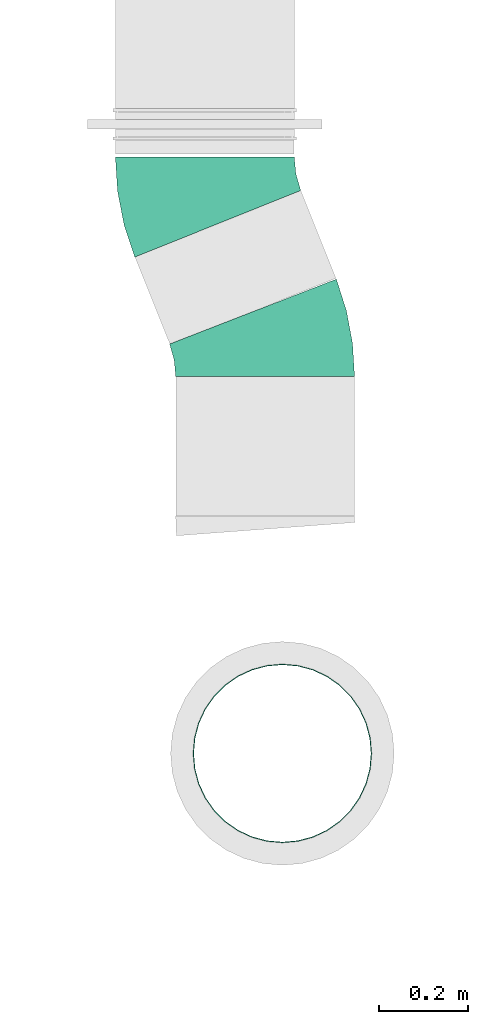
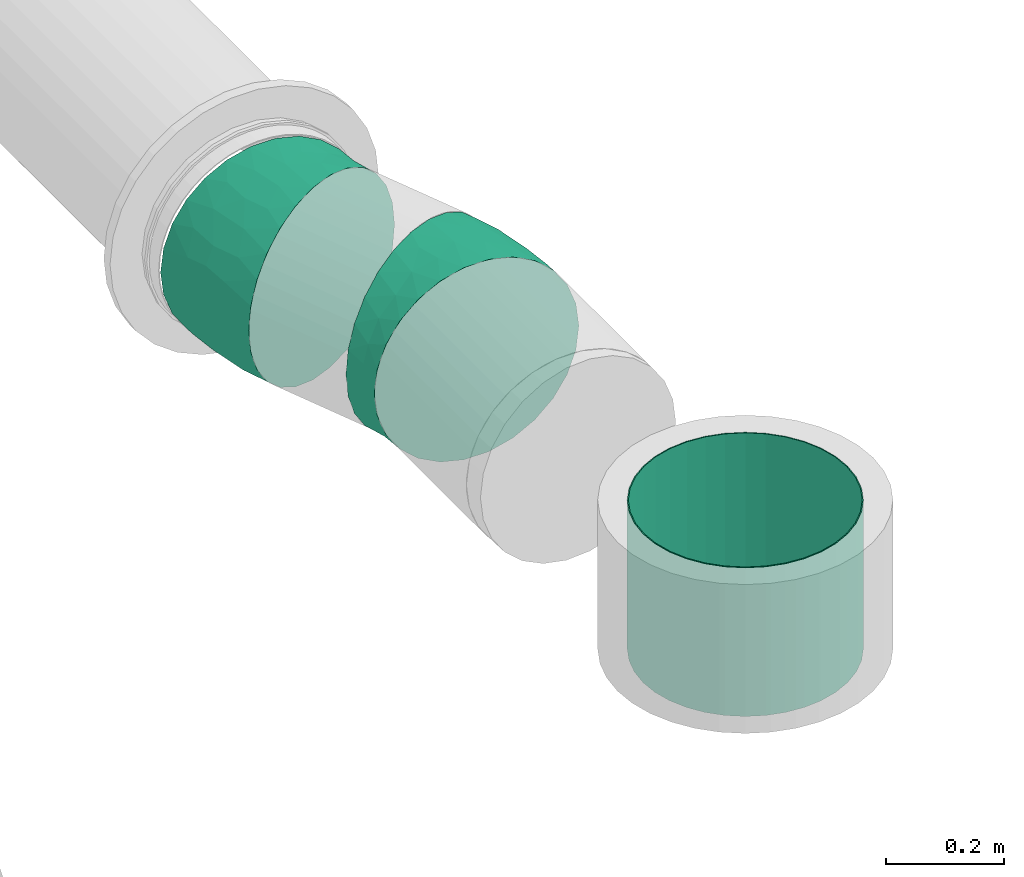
# One storey, part 12 of 14: 2 flow fittings, 1 flow segment.
"""IFC2X3 building model written with IfcOpenShell, lengths in millimetres."""

from ifc_helpers import new_model, entity, si_unit, converted_unit, derived_unit, direction, frame, origin_with_axes, place, context, subcontext, project, spatial, open_shell, faceted_brep, surface_model, source, transform, mapped, type_object, element, save


model = new_model("IFC2X3")

# Units and contexts
model_context = context("Model", 3, precision=0.01, world=frame((0.0, 4.29681676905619e-09, 0.0)), true_north=direction((4.01073788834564e-13, 1.0)))
plan_context = context("Plan", 3, precision=0.01, world=frame((0.0, 4.29681676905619e-09, 0.0)), true_north=direction((4.01073788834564e-13, 1.0)))
body_context = subcontext(model_context, "Body", "Model", "MODEL_VIEW")
ifc_project = project(units=[converted_unit("PLANEANGLEUNIT", "DEGREE", entity("IfcPositiveLengthMeasure", 0.0174532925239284), si_unit("PLANEANGLEUNIT", "RADIAN"), dimensions=[0, 0, 0, 0, 0, 0, 0]), si_unit("AREAUNIT", "SQUARE_METRE"), si_unit("LENGTHUNIT", "METRE", prefix="MILLI"), si_unit("MASSUNIT", "GRAM", prefix="KILO"), si_unit("POWERUNIT", "WATT"), si_unit("PRESSUREUNIT", "PASCAL", prefix="KILO"), si_unit("FORCEUNIT", "NEWTON", prefix="KILO"), si_unit("ELECTRICVOLTAGEUNIT", "VOLT"), si_unit("ELECTRICCURRENTUNIT", "AMPERE"), si_unit("THERMODYNAMICTEMPERATUREUNIT", "DEGREE_CELSIUS"), si_unit("TIMEUNIT", "SECOND"), si_unit("VOLUMEUNIT", "CUBIC_METRE"), derived_unit("LINEARVELOCITYUNIT", [(si_unit("LENGTHUNIT", "METRE"), 1), (si_unit("TIMEUNIT", "SECOND"), -1)]), derived_unit("VOLUMETRICFLOWRATEUNIT", [(si_unit("VOLUMEUNIT", "CUBIC_METRE"), 1), (si_unit("TIMEUNIT", "SECOND"), -1)]), derived_unit("THERMALTRANSMITTANCEUNIT", [(si_unit("POWERUNIT", "WATT"), 1), (si_unit("THERMODYNAMICTEMPERATUREUNIT", "KELVIN"), -1), (si_unit("AREAUNIT", "SQUARE_METRE"), -1)]), derived_unit("SOUNDPRESSUREUNIT", [(si_unit("PRESSUREUNIT", "PASCAL"), 1)])], contexts=[model_context, plan_context])

# Site, building, storey
site_placement = place(None, frame((0.0, -4.29681676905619e-09, 0.0), z_axis=(0.0, 0.0, 1.0), x_axis=(1.0, 0.0, 0.0)))
site = spatial("IfcSite", under=ifc_project, at=site_placement, CompositionType="ELEMENT")
building_placement = place(site_placement, frame((0.0, 4.29681676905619e-09, 0.0), z_axis=(0.0, 0.0, 1.0), x_axis=(1.0, 0.0, 0.0)))
building = spatial("IfcBuilding", under=site, at=building_placement, Name="mc-building", CompositionType="ELEMENT")
storey_placement = place(building_placement, frame((0.0, 0.0, 205200.0), z_axis=(0.0, 0.0, 1.0), x_axis=(1.0, 0.0, 0.0)))
storey = spatial("IfcBuildingStorey", under=building, at=storey_placement, Name="Nivå D + 1,2 m", CompositionType="ELEMENT", Elevation=205200.0)

# Flow fittings
duct_fitting_type = type_object("IfcDuctFittingType", Name="magicirc_elbow_full_radius_001", PredefinedType="BEND")
shared_shape_1 = source(origin_with_axes(), body_context, "Body", "SurfaceModel", [
    surface_model("IfcShellBasedSurfaceModel", [(-77.33017, 113.61295, -164.59677), (-77.33017, 70.92098, -187.00325), (-77.33017, 24.10734, -198.54177), (-77.33017, -70.92098, -187.00325), (-77.33017, 194.18836, -47.86313), (-77.33017, 177.09121, -92.94464), (-77.33017, 149.70215, -132.62454), (-77.33017, -113.61295, 164.59677), (-77.33017, -113.61295, -164.59677), (-77.33017, -177.09121, -92.94464), (-77.33017, -24.10734, -198.54177), (-77.33017, -149.70215, -132.62454), (-77.33017, -194.18836, -47.86313), (-77.33017, -200.0, 0.0), (-77.33017, -149.70215, 132.62454), (-77.33017, 200.0, 0.0), (-77.33017, 177.09121, 92.94464), (-77.33017, 194.18836, 47.86313), (-77.33017, 149.70215, 132.62454), (-77.33017, 70.92098, 187.00325), (-77.33017, 113.61295, 164.59677), (-77.33017, -177.09121, 92.94464), (-77.33017, -194.18836, 47.86313), (-77.33017, -70.92098, 187.00325), (-77.33017, -24.10734, 198.54177), (-77.33017, 24.10734, 198.54177), (98.19174, -36.98813, -187.00325), (62.77274, 51.19279, -198.54177), (45.32434, 94.63321, -187.00325), (29.41216, 134.24895, -164.59677), (15.96098, 167.73771, -132.62454), (5.75251, 193.1532, -92.94464), (-0.61995, 209.0184, -47.86313), (137.76358, -135.50812, -92.94464), (127.5551, -110.09262, -132.62454), (114.10392, -76.60387, -164.59677), (80.74335, 6.4523, -198.54177), (146.30215, -156.76618, 0.0), (144.13603, -151.37331, -47.86313), (-0.61995, 209.0184, 47.86313), (127.5551, -110.09262, 132.62454), (15.96098, 167.73771, 132.62454), (5.75251, 193.1532, 92.94464), (29.41216, 134.24895, 164.59677), (45.32434, 94.63321, 187.00325), (114.10392, -76.60387, 164.59677), (137.76358, -135.50812, 92.94464), (144.13603, -151.37331, 47.86313), (62.77274, 51.19279, 198.54177), (80.74335, 6.4523, 198.54177), (98.19174, -36.98813, 187.00325), (-2.78607, 214.41128, 0.0), (-27.38784, -164.63926, 110.28686), (-11.12121, -185.12745, 65.81313), (30.74858, -159.0509, 106.315), (-1.14854, -195.14398, 0.0), (-25.64073, 45.60173, 195.57198), (33.9623, -175.67427, 72.66263), (79.32065, -167.64273, 65.81313), (-34.72325, -94.15427, 175.46042), (-14.1583, -132.63872, 146.29674), (17.51857, -90.61703, 173.37721), (-20.42093, -48.85382, 193.00077), (-0.13763, 0.71192, 199.88836), (62.57526, -117.80419, 146.29673), (86.77881, -142.56795, 110.28685), (-18.09046, 93.57514, 179.64783), (-32.75564, 132.42081, 153.06104), (-36.61679, 189.40494, 74.7508), (-32.14092, 166.25295, 117.38964), (39.90572, -36.75194, 193.06427), (-38.2418, 200.12932, 38.07155), (22.20226, -188.56611, 34.94898), (19.33055, 57.92489, 194.97961), (67.31444, -74.42779, 175.46044), (73.79996, -180.65453, 0.0), (-39.36799, 203.63586, 0.0), (79.32065, -167.64273, -65.81314), (37.15829, -37.7223, -193.00077), (-39.52748, 46.54614, -194.97961), (-0.13764, 0.7119, -199.88836), (-36.61679, 189.40494, -74.7508), (-32.14093, 166.25295, -117.38964), (17.51858, -90.61705, -173.37721), (-34.72324, -94.15428, -175.46042), (-23.33205, -48.97742, -193.06427), (-18.96057, 135.08776, -153.06104), (49.68002, -183.25395, -34.94898), (-11.1212, -185.12745, -65.81313), (33.9623, -175.67427, -72.66263), (-14.15829, -132.63872, -146.29674), (62.57527, -117.80417, -146.29674), (30.74858, -159.05088, -106.315), (-39.10608, 199.96223, -38.07155), (-27.38784, -164.63926, -110.28686), (86.77881, -142.56795, -110.28686), (6.79642, 51.87265, -195.57198), (67.31445, -74.4278, -175.46042), (-18.09046, 93.57515, -179.64783)], [open_shell([[[0, 1, 2]], [[0, 2, 3]], [[4, 5, 6]], [[0, 3, 7]], [[7, 6, 0]], [[8, 9, 3]], [[2, 10, 3]], [[9, 8, 11]], [[9, 12, 13]], [[13, 14, 9]], [[7, 3, 9]], [[15, 4, 6]], [[16, 17, 15]], [[18, 16, 15]], [[19, 20, 18]], [[7, 18, 6]], [[19, 18, 7]], [[13, 21, 14]], [[21, 13, 22]], [[23, 24, 25]], [[25, 7, 23]], [[7, 9, 14]], [[25, 19, 7]], [[18, 15, 6]], [[26, 27, 28]], [[29, 26, 28]], [[30, 31, 32]], [[29, 30, 26]], [[32, 33, 30]], [[26, 34, 35]], [[26, 36, 27]], [[34, 26, 33]], [[37, 38, 33]], [[30, 33, 26]], [[37, 33, 32]], [[32, 39, 37]], [[40, 37, 39]], [[41, 39, 42]], [[41, 43, 44]], [[39, 41, 45]], [[44, 45, 41]], [[37, 46, 47]], [[40, 46, 37]], [[48, 49, 45]], [[50, 45, 49]], [[45, 40, 39]], [[48, 45, 44]], [[32, 51, 39]], [[52, 53, 54]], [[55, 22, 13]], [[19, 25, 56]], [[57, 58, 54]], [[59, 60, 61]], [[52, 14, 21]], [[22, 53, 21]], [[59, 23, 7]], [[24, 62, 63]], [[7, 14, 60]], [[64, 65, 40]], [[24, 23, 62]], [[22, 55, 53]], [[24, 63, 25]], [[60, 64, 61]], [[63, 56, 25]], [[20, 19, 66]], [[52, 60, 14]], [[18, 20, 67]], [[67, 20, 66]], [[42, 39, 68]], [[69, 16, 18]], [[17, 16, 68]], [[63, 70, 49]], [[71, 15, 17]], [[59, 62, 23]], [[57, 72, 58]], [[58, 65, 54]], [[70, 63, 62]], [[40, 45, 64]], [[49, 48, 63]], [[50, 49, 70]], [[46, 40, 65]], [[73, 66, 56]], [[53, 72, 57]], [[46, 65, 58]], [[50, 74, 45]], [[64, 45, 74]], [[44, 43, 66]], [[47, 75, 37]], [[69, 68, 16]], [[75, 47, 58]], [[61, 70, 62]], [[17, 68, 71]], [[53, 52, 21]], [[76, 71, 51]], [[60, 52, 54]], [[39, 71, 68]], [[64, 60, 54]], [[43, 41, 67]], [[61, 74, 70]], [[42, 68, 69]], [[65, 64, 54]], [[41, 69, 67]], [[73, 48, 44]], [[41, 42, 69]], [[62, 59, 61]], [[47, 46, 58]], [[70, 74, 50]], [[60, 59, 7]], [[64, 74, 61]], [[43, 67, 66]], [[18, 67, 69]], [[51, 71, 39]], [[71, 76, 15]], [[73, 63, 48]], [[19, 56, 66]], [[66, 73, 44]], [[63, 73, 56]], [[54, 53, 57]], [[53, 55, 72]], [[55, 75, 72]], [[58, 72, 75]], [[33, 38, 77]], [[36, 26, 78]], [[79, 2, 1]], [[80, 10, 2]], [[5, 81, 82]], [[83, 84, 85]], [[86, 0, 6]], [[87, 88, 89]], [[86, 6, 82]], [[90, 91, 92]], [[35, 34, 91]], [[93, 81, 4]], [[88, 9, 94]], [[30, 29, 86]], [[55, 13, 12]], [[77, 95, 33]], [[9, 88, 12]], [[32, 31, 81]], [[84, 8, 3]], [[28, 27, 96]], [[9, 11, 94]], [[90, 11, 8]], [[10, 85, 3]], [[55, 12, 88]], [[94, 90, 92]], [[82, 81, 31]], [[15, 76, 93]], [[91, 97, 35]], [[51, 32, 93]], [[88, 94, 92]], [[5, 4, 81]], [[95, 91, 34]], [[97, 78, 26]], [[82, 6, 5]], [[1, 0, 98]], [[96, 79, 98]], [[96, 27, 80]], [[84, 90, 8]], [[80, 78, 85]], [[29, 98, 86]], [[38, 75, 77]], [[36, 80, 27]], [[97, 26, 35]], [[29, 28, 98]], [[33, 95, 34]], [[83, 97, 91]], [[77, 89, 92]], [[78, 80, 36]], [[92, 95, 77]], [[31, 30, 82]], [[37, 75, 38]], [[90, 94, 11]], [[83, 85, 78]], [[89, 77, 87]], [[91, 90, 83]], [[80, 85, 10]], [[85, 84, 3]], [[32, 81, 93]], [[90, 84, 83]], [[91, 95, 92]], [[78, 97, 83]], [[0, 86, 98]], [[30, 86, 82]], [[15, 93, 4]], [[93, 76, 51]], [[79, 80, 2]], [[28, 96, 98]], [[98, 79, 1]], [[80, 79, 96]], [[87, 77, 75]], [[88, 92, 89]], [[75, 55, 87]], [[88, 87, 55]]])]),
])
flow_fitting_1_placement = place(storey_placement, frame((329465.56528, 466686.4038, 4099.98340999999), z_axis=(0.0, 0.0, 1.0), x_axis=(0.0, -1.0, 0.0)))
element("IfcFlowFitting", 1, at=flow_fitting_1_placement, inside=storey, type_object=duct_fitting_type, Name="magicirc_elbow_full_radius_001", context=body_context, shape_type="MappedRepresentation", body=[
    mapped(shared_shape_1, transform((0.0, 0.0, 0.0), scale=1.0)),
])
shared_shape_2 = source(origin_with_axes(), body_context, "Body", "SurfaceModel", [
    surface_model("IfcShellBasedSurfaceModel", [(-74.9972, 113.61295, -164.59677), (-74.9972, 70.92098, -187.00325), (-74.9972, 24.10734, -198.54177), (-74.9972, -70.92098, -187.00325), (-74.9972, 194.18836, -47.86313), (-74.9972, 177.09121, -92.94464), (-74.9972, 149.70215, -132.62454), (-74.9972, -113.61295, 164.59677), (-74.9972, -113.61295, -164.59677), (-74.9972, -177.09121, -92.94464), (-74.9972, -24.10734, -198.54177), (-74.9972, -149.70215, -132.62454), (-74.9972, -194.18836, -47.86313), (-74.9972, -200.0, 0.0), (-74.9972, -149.70215, 132.62454), (-74.9972, 200.0, 0.0), (-74.9972, 177.09121, 92.94464), (-74.9972, 194.18836, 47.86313), (-74.9972, 149.70215, 132.62454), (-74.9972, 70.92098, 187.00325), (-74.9972, 113.61295, 164.59677), (-74.9972, -177.09121, 92.94464), (-74.9972, -194.18836, 47.86313), (-74.9972, -70.92098, 187.00325), (-74.9972, -24.10734, 198.54177), (-74.9972, 24.10734, 198.54177), (78.63633, 4.69787, -198.54177), (61.17049, 49.63782, -198.54177), (44.21218, 93.2719, -187.00325), (28.74695, 133.06425, -164.59677), (95.59465, -38.9362, -187.00325), (5.75186, 192.23109, -92.94464), (15.67358, 166.70229, -132.62454), (134.05497, -137.89539, 92.94464), (124.13325, -112.36659, -132.62454), (111.05988, -78.72855, -164.59677), (134.05497, -137.89539, -92.94464), (140.24844, -153.83131, -47.86313), (142.35372, -159.24822, 0.0), (-0.44162, 208.16702, -47.86313), (-0.44162, 208.16702, 47.86313), (5.75186, 192.23109, 92.94464), (15.67358, 166.70229, 132.62454), (28.74695, 133.06425, 164.59677), (44.21218, 93.2719, 187.00325), (95.59465, -38.9362, 187.00325), (124.13325, -112.36659, 132.62454), (140.24844, -153.83131, 47.86313), (61.17049, 49.63782, 198.54177), (78.63633, 4.69787, 198.54177), (111.05988, -78.72855, 164.59677), (-2.54689, 213.58393, 0.0), (-26.81365, -164.65151, 110.49846), (-9.98767, -185.17776, 66.0527), (29.8835, -159.38464, 106.74452), (-1.04922, -195.42564, 0.0), (-23.91859, 45.86704, 195.49672), (32.9294, -175.63005, 74.36543), (76.39023, -168.98251, 66.0527), (-33.96853, -94.09065, 175.56777), (-12.81979, -132.59075, 146.44932), (17.0171, -90.76131, 173.60001), (-18.80061, -48.75485, 193.05157), (-0.12469, 0.66503, 199.90095), (59.98025, -118.94127, 146.4493), (84.63772, -143.75515, 110.49846), (-17.53742, 93.53638, 179.50327), (-30.73493, 132.60041, 152.86872), (-35.48619, 189.26674, 74.52923), (-31.1533, 166.15717, 117.172), (39.52304, -37.15032, 193.14813), (-37.44662, 199.72278, 38.6345), (24.89584, -188.51219, 34.90906), (19.59541, 57.61988, 194.91941), (65.74587, -75.39489, 175.56777), (71.7712, -181.77232, 0.0), (-38.14082, 203.42532, 0.0), (76.39023, -168.98251, -66.05271), (35.1852, -38.6329, -193.05157), (-39.1374, 46.60789, -194.91941), (-0.12469, 0.66501, -199.90095), (-35.48619, 189.26674, -74.52923), (-31.15331, 166.15717, -117.172), (17.01711, -90.76133, -173.6), (-33.96852, -94.09066, -175.56777), (-23.38089, -48.94437, -193.14811), (-19.38728, 134.72802, -152.86872), (45.0839, -184.72708, -34.90906), (-9.98767, -185.17776, -66.05271), (32.9294, -175.63005, -74.36544), (-12.81978, -132.59075, -146.44932), (59.98027, -118.94125, -146.44932), (29.8835, -159.38464, -106.74453), (-37.44662, 199.72278, -38.6345), (-26.81364, -164.65151, -110.49846), (84.63772, -143.75514, -110.49847), (5.67861, 51.4163, -195.49672), (65.74587, -75.3949, -175.56777), (-17.53742, 93.53639, -179.50325)], [open_shell([[[0, 1, 2]], [[0, 2, 3]], [[4, 5, 6]], [[0, 3, 7]], [[7, 6, 0]], [[8, 9, 3]], [[2, 10, 3]], [[9, 8, 11]], [[9, 12, 13]], [[13, 14, 9]], [[7, 3, 9]], [[15, 4, 6]], [[16, 17, 15]], [[18, 16, 15]], [[19, 20, 18]], [[7, 18, 6]], [[19, 18, 7]], [[13, 21, 14]], [[21, 13, 22]], [[23, 24, 25]], [[25, 7, 23]], [[7, 9, 14]], [[25, 19, 7]], [[18, 15, 6]], [[26, 27, 28]], [[29, 26, 28]], [[30, 29, 31]], [[31, 29, 32]], [[33, 30, 31]], [[30, 34, 35]], [[30, 26, 29]], [[34, 30, 36]], [[36, 30, 37]], [[30, 33, 37]], [[33, 38, 37]], [[39, 33, 31]], [[39, 40, 33]], [[41, 33, 40]], [[42, 43, 44]], [[42, 44, 41]], [[44, 45, 41]], [[41, 46, 33]], [[47, 38, 33]], [[48, 49, 45]], [[50, 46, 45]], [[46, 41, 45]], [[45, 44, 48]], [[40, 39, 51]], [[52, 53, 54]], [[55, 22, 13]], [[19, 25, 56]], [[57, 58, 54]], [[59, 60, 61]], [[52, 14, 21]], [[22, 53, 21]], [[59, 23, 7]], [[24, 62, 63]], [[7, 14, 60]], [[64, 65, 46]], [[24, 23, 62]], [[22, 55, 53]], [[24, 63, 25]], [[60, 64, 61]], [[63, 56, 25]], [[20, 19, 66]], [[52, 60, 14]], [[18, 20, 67]], [[67, 20, 66]], [[41, 40, 68]], [[69, 16, 18]], [[17, 16, 68]], [[63, 70, 49]], [[71, 15, 17]], [[59, 62, 23]], [[57, 72, 58]], [[58, 65, 54]], [[70, 63, 62]], [[46, 50, 64]], [[49, 48, 63]], [[45, 49, 70]], [[33, 46, 65]], [[73, 66, 56]], [[53, 72, 57]], [[33, 65, 58]], [[45, 74, 50]], [[64, 50, 74]], [[44, 43, 66]], [[47, 75, 38]], [[69, 68, 16]], [[75, 47, 58]], [[61, 70, 62]], [[71, 17, 68]], [[53, 52, 21]], [[76, 71, 51]], [[60, 52, 54]], [[40, 71, 68]], [[64, 60, 54]], [[43, 42, 67]], [[61, 74, 70]], [[41, 68, 69]], [[65, 64, 54]], [[42, 69, 67]], [[73, 48, 44]], [[42, 41, 69]], [[62, 59, 61]], [[47, 33, 58]], [[70, 74, 45]], [[60, 59, 7]], [[64, 74, 61]], [[43, 67, 66]], [[18, 67, 69]], [[51, 71, 40]], [[15, 71, 76]], [[73, 63, 48]], [[19, 56, 66]], [[66, 73, 44]], [[63, 73, 56]], [[54, 53, 57]], [[53, 55, 72]], [[55, 75, 72]], [[58, 72, 75]], [[36, 37, 77]], [[26, 30, 78]], [[79, 2, 1]], [[80, 10, 2]], [[5, 81, 82]], [[83, 84, 85]], [[86, 0, 6]], [[87, 88, 89]], [[86, 6, 82]], [[90, 91, 92]], [[35, 34, 91]], [[93, 81, 4]], [[88, 9, 94]], [[32, 29, 86]], [[55, 13, 12]], [[77, 95, 36]], [[9, 88, 12]], [[39, 31, 81]], [[84, 8, 3]], [[28, 27, 96]], [[9, 11, 94]], [[90, 11, 8]], [[10, 85, 3]], [[55, 12, 88]], [[94, 90, 92]], [[82, 81, 31]], [[15, 76, 93]], [[91, 97, 35]], [[51, 39, 93]], [[88, 94, 92]], [[5, 4, 81]], [[95, 91, 34]], [[97, 78, 30]], [[82, 6, 5]], [[1, 0, 98]], [[96, 79, 98]], [[96, 27, 80]], [[84, 90, 8]], [[80, 78, 85]], [[29, 98, 86]], [[37, 75, 77]], [[26, 80, 27]], [[97, 30, 35]], [[29, 28, 98]], [[36, 95, 34]], [[83, 97, 91]], [[77, 89, 92]], [[78, 80, 26]], [[92, 95, 77]], [[31, 32, 82]], [[38, 75, 37]], [[90, 94, 11]], [[83, 85, 78]], [[89, 77, 87]], [[91, 90, 83]], [[80, 85, 10]], [[85, 84, 3]], [[93, 39, 81]], [[90, 84, 83]], [[91, 95, 92]], [[78, 97, 83]], [[0, 86, 98]], [[32, 86, 82]], [[15, 93, 4]], [[51, 93, 76]], [[79, 80, 2]], [[28, 96, 98]], [[98, 79, 1]], [[80, 79, 96]], [[87, 77, 75]], [[88, 92, 89]], [[75, 55, 87]], [[88, 87, 55]]])]),
])
flow_fitting_2_placement = place(storey_placement, frame((329600.36748, 466348.52856, 4099.98340999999), z_axis=(0.0, 0.0, 1.0), x_axis=(0.0, 1.0, 0.0)))
element("IfcFlowFitting", 2, at=flow_fitting_2_placement, inside=storey, type_object=duct_fitting_type, Name="magicirc_elbow_full_radius_001", context=body_context, shape_type="MappedRepresentation", body=[
    mapped(shared_shape_2, transform((0.0, 0.0, 0.0), scale=1.0)),
])

# Flow segment
duct_segment_type = type_object("IfcDuctSegmentType", Name="2 - Spiro kanaler, Forsinket stål", PredefinedType="RIGIDSEGMENT")
flow_segment_placement = place(storey_placement, frame((329638.925, 465430.5, 3365.0), z_axis=(0.0, -1.0, 0.0), x_axis=(0.0, 0.0, 1.0)))
element("IfcFlowSegment", 3, at=flow_segment_placement, inside=storey, type_object=duct_segment_type, Name="2 - Spiro kanaler, Forsinket stål", context=body_context, shape_type="Brep", body=[
    faceted_brep([(635.0, 194.991935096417, -34.3823391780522), (635.0, 198.0, 0.0), (942.6, 198.0, 0.0), (942.6, 194.991935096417, -34.3823391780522), (635.0, 186.05913891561, -67.7199883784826), (942.6, 186.05913891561, -67.7199883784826), (635.0, 171.473029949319, -99.0000000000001), (942.6, 171.473029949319, -99.0000000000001), (635.0, 151.676799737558, -127.271946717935), (942.6, 151.676799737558, -127.271946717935), (635.0, 127.271946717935, -151.676799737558), (942.6, 127.271946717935, -151.676799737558), (635.0, 99.0, -171.473029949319), (942.6, 99.0, -171.473029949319), (635.0, 67.7199883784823, -186.05913891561), (942.6, 67.7199883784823, -186.05913891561), (635.0, 34.3823391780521, -194.991935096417), (942.6, 34.3823391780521, -194.991935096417), (635.0, -3.63720099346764e-14, -198.0), (942.6, -3.63720099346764e-14, -198.0), (635.0, -34.3823391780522, -194.991935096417), (942.6, -34.3823391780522, -194.991935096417), (635.0, -67.7199883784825, -186.05913891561), (942.6, -67.7199883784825, -186.05913891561), (635.0, -99.0000000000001, -171.473029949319), (942.6, -99.0000000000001, -171.473029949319), (635.0, -127.271946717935, -151.676799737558), (942.6, -127.271946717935, -151.676799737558), (635.0, -151.676799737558, -127.271946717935), (942.6, -151.676799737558, -127.271946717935), (635.0, -171.473029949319, -98.9999999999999), (942.6, -171.473029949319, -98.9999999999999), (635.0, -186.05913891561, -67.7199883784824), (942.6, -186.05913891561, -67.7199883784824), (635.0, -194.991935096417, -34.3823391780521), (942.6, -194.991935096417, -34.3823391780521), (635.0, -198.0, 2.42480066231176e-14), (942.6, -198.0, 2.42480066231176e-14), (635.0, -194.991935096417, 34.3823391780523), (942.6, -194.991935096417, 34.3823391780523), (635.0, -186.05913891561, 67.7199883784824), (942.6, -186.05913891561, 67.7199883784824), (635.0, -171.473029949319, 99.0), (942.6, -171.473029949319, 99.0), (635.0, -151.676799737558, 127.271946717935), (942.6, -151.676799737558, 127.271946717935), (635.0, -127.271946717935, 151.676799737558), (942.6, -127.271946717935, 151.676799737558), (635.0, -99.0, 171.473029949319), (942.6, -99.0, 171.473029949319), (635.0, -67.7199883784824, 186.05913891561), (942.6, -67.7199883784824, 186.05913891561), (635.0, -34.3823391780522, 194.991935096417), (942.6, -34.3823391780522, 194.991935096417), (635.0, 1.21240033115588e-14, 198.0), (942.6, 1.21240033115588e-14, 198.0), (635.0, 34.3823391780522, 194.991935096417), (942.6, 34.3823391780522, 194.991935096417), (635.0, 67.7199883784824, 186.05913891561), (942.6, 67.7199883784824, 186.05913891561), (635.0, 99.0, 171.473029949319), (942.6, 99.0, 171.473029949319), (635.0, 127.271946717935, 151.676799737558), (942.6, 127.271946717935, 151.676799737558), (635.0, 151.676799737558, 127.271946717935), (942.6, 151.676799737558, 127.271946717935), (635.0, 171.473029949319, 99.0), (942.6, 171.473029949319, 99.0), (635.0, 186.05913891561, 67.7199883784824), (942.6, 186.05913891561, 67.7199883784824), (635.0, 194.991935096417, 34.3823391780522), (942.6, 194.991935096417, 34.3823391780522), (635.0, 200.0, 0.0), (635.0, 196.961550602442, -34.7296355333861), (942.6, 196.961550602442, -34.7296355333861), (942.6, 200.0, 0.0), (635.0, 196.961550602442, 34.7296355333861), (942.6, 196.961550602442, 34.7296355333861), (635.0, 187.938524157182, 68.4040286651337), (942.6, 187.938524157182, 68.4040286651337), (635.0, 173.205080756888, 100.0), (942.6, 173.205080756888, 100.0), (635.0, 153.208888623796, 128.557521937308), (942.6, 153.208888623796, 128.557521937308), (635.0, 128.557521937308, 153.208888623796), (942.6, 128.557521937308, 153.208888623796), (635.0, 100.0, 173.205080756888), (942.6, 100.0, 173.205080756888), (635.0, 68.4040286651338, 187.938524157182), (942.6, 68.4040286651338, 187.938524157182), (635.0, 34.7296355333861, 196.961550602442), (942.6, 34.7296355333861, 196.961550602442), (635.0, 1.22464679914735e-14, 200.0), (942.6, 1.22464679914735e-14, 200.0), (635.0, -34.7296355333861, 196.961550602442), (942.6, -34.7296355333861, 196.961550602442), (635.0, -68.4040286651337, 187.938524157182), (942.6, -68.4040286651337, 187.938524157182), (635.0, -99.9999999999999, 173.205080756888), (942.6, -100.0, 173.205080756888), (635.0, -128.557521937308, 153.208888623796), (942.6, -128.557521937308, 153.208888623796), (635.0, -153.208888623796, 128.557521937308), (942.6, -153.208888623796, 128.557521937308), (635.0, -173.205080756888, 100.0), (942.6, -173.205080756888, 100.0), (635.0, -187.938524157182, 68.4040286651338), (942.6, -187.938524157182, 68.4040286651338), (635.0, -196.961550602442, 34.7296355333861), (942.6, -196.961550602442, 34.7296355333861), (635.0, -200.0, 2.44929359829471e-14), (942.6, -200.0, 2.44929359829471e-14), (635.0, -196.961550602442, -34.729635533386), (942.6, -196.961550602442, -34.729635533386), (635.0, -187.938524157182, -68.4040286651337), (942.6, -187.938524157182, -68.4040286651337), (635.0, -173.205080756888, -99.9999999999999), (942.6, -173.205080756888, -99.9999999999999), (635.0, -153.208888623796, -128.557521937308), (942.6, -153.208888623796, -128.557521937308), (635.0, -128.557521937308, -153.208888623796), (942.6, -128.557521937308, -153.208888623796), (635.0, -100.0, -173.205080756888), (942.6, -100.0, -173.205080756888), (635.0, -68.4040286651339, -187.938524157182), (942.6, -68.4040286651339, -187.938524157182), (635.0, -34.7296355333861, -196.961550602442), (942.6, -34.7296355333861, -196.961550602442), (635.0, -3.67394039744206e-14, -200.0), (942.6, -3.67394039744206e-14, -200.0), (635.0, 34.729635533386, -196.961550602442), (942.6, 34.729635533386, -196.961550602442), (635.0, 68.4040286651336, -187.938524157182), (942.6, 68.4040286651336, -187.938524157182), (635.0, 100.0, -173.205080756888), (942.6, 100.0, -173.205080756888), (635.0, 128.557521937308, -153.208888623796), (942.6, 128.557521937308, -153.208888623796), (635.0, 153.208888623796, -128.557521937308), (942.6, 153.208888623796, -128.557521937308), (635.0, 173.205080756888, -100.0), (942.6, 173.205080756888, -100.0), (635.0, 187.938524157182, -68.4040286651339), (942.6, 187.938524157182, -68.4040286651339)], [[[0, 1, 2, 3]], [[4, 0, 3, 5]], [[6, 4, 5, 7]], [[8, 6, 7, 9]], [[10, 8, 9, 11]], [[12, 10, 11, 13]], [[14, 12, 13, 15]], [[16, 14, 15, 17]], [[18, 16, 17, 19]], [[20, 18, 19, 21]], [[22, 20, 21, 23]], [[24, 22, 23, 25]], [[26, 24, 25, 27]], [[28, 26, 27, 29]], [[30, 28, 29, 31]], [[32, 30, 31, 33]], [[34, 32, 33, 35]], [[36, 34, 35, 37]], [[38, 36, 37, 39]], [[40, 38, 39, 41]], [[42, 40, 41, 43]], [[44, 42, 43, 45]], [[46, 44, 45, 47]], [[48, 46, 47, 49]], [[50, 48, 49, 51]], [[52, 50, 51, 53]], [[54, 52, 53, 55]], [[56, 54, 55, 57]], [[58, 56, 57, 59]], [[60, 58, 59, 61]], [[62, 60, 61, 63]], [[64, 62, 63, 65]], [[66, 64, 65, 67]], [[68, 66, 67, 69]], [[70, 68, 69, 71]], [[1, 70, 71, 2]], [[72, 73, 74, 75]], [[76, 72, 75, 77]], [[78, 76, 77, 79]], [[80, 78, 79, 81]], [[82, 80, 81, 83]], [[84, 82, 83, 85]], [[86, 84, 85, 87]], [[88, 86, 87, 89]], [[90, 88, 89, 91]], [[92, 90, 91, 93]], [[94, 92, 93, 95]], [[96, 94, 95, 97]], [[98, 96, 97, 99]], [[100, 98, 99, 101]], [[102, 100, 101, 103]], [[104, 102, 103, 105]], [[106, 104, 105, 107]], [[108, 106, 107, 109]], [[110, 108, 109, 111]], [[112, 110, 111, 113]], [[114, 112, 113, 115]], [[116, 114, 115, 117]], [[118, 116, 117, 119]], [[120, 118, 119, 121]], [[122, 120, 121, 123]], [[124, 122, 123, 125]], [[126, 124, 125, 127]], [[128, 126, 127, 129]], [[130, 128, 129, 131]], [[132, 130, 131, 133]], [[134, 132, 133, 135]], [[136, 134, 135, 137]], [[138, 136, 137, 139]], [[140, 138, 139, 141]], [[142, 140, 141, 143]], [[73, 142, 143, 74]], [[75, 74, 143, 141, 139, 137, 135, 133, 131, 129, 127, 125, 123, 121, 119, 117, 115, 113, 111, 109, 107, 105, 103, 101, 99, 97, 95, 93, 91, 89, 87, 85, 83, 81, 79, 77], [2, 71, 69, 67, 65, 63, 61, 59, 57, 55, 53, 51, 49, 47, 45, 43, 41, 39, 37, 35, 33, 31, 29, 27, 25, 23, 21, 19, 17, 15, 13, 11, 9, 7, 5, 3]], [[76, 78, 80, 82, 84, 86, 88, 90, 92, 94, 96, 98, 100, 102, 104, 106, 108, 110, 112, 114, 116, 118, 120, 122, 124, 126, 128, 130, 132, 134, 136, 138, 140, 142, 73, 72], [4, 6, 8, 10, 12, 14, 16, 18, 20, 22, 24, 26, 28, 30, 32, 34, 36, 38, 40, 42, 44, 46, 48, 50, 52, 54, 56, 58, 60, 62, 64, 66, 68, 70, 1, 0]]], orient=[[False], [False], [False], [False], [False], [False], [False], [False], [False], [False], [False], [False], [False], [False], [False], [False], [False], [False], [False], [False], [False], [False], [False], [False], [False], [False], [False], [False], [False], [False], [False], [False], [False], [False], [False], [False], [False], [False], [False], [False], [False], [False], [False], [False], [False], [False], [False], [False], [False], [False], [False], [False], [False], [False], [False], [False], [False], [False], [False], [False], [False], [False], [False], [False], [False], [False], [False], [False], [False], [False], [False], [False], [False, False], [False, False]]),
])

save(model, "model.ifc")
